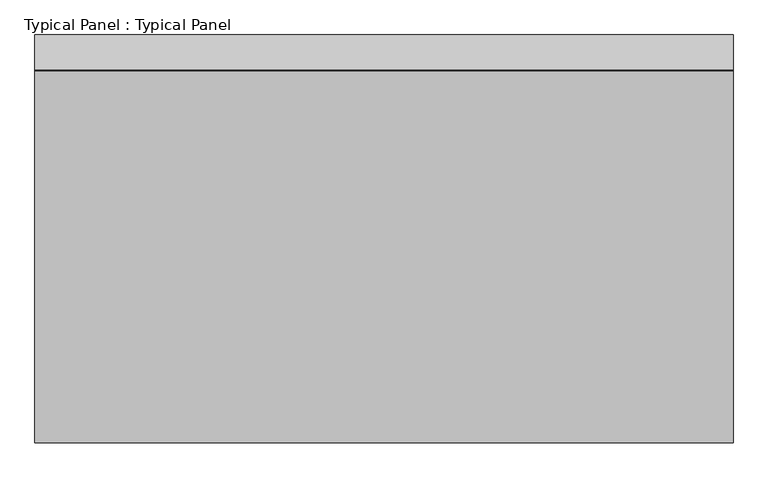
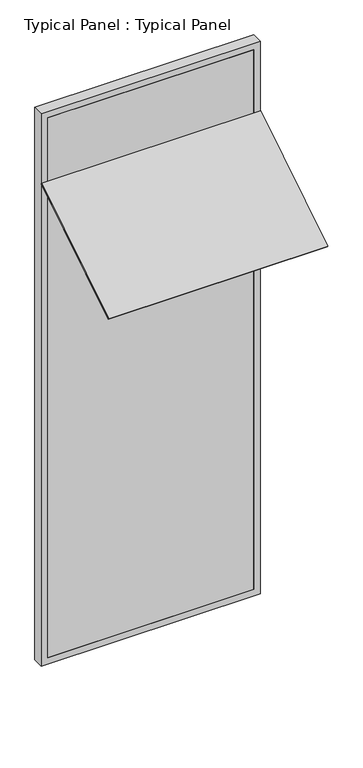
"""IFC4 building model written with IfcOpenShell, lengths in millimetres: plate geometry, Typical Panel : Typical Panel."""

from ifc_helpers import new_model, si_unit, frame, origin, place, context, project, spatial, polyline, outline, extrude, source, transform, mapped, element, save


def typical_panel_typical_panel_2c4e3443(model_context):
    return source(origin(), model_context, "Body", "SweptSolid", [
        extrude(outline(polyline([(0.0, -939.9999999), (0.0, 0.0), (1500.0, 0.0), (1500.0, -939.9999999), (0.0, -939.9999999)])), frame((750.0, -796.8660177, 2993.3954107), z_axis=(0.0, -0.5299192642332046, 0.8480480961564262), x_axis=(-1.0, 0.0, 0.0)), (0.0, 0.0, 1.0), 10.0),
        extrude(outline(polyline([(0.0, -750.0), (0.0, 750.0), (4000.0, 750.0), (4000.0, -750.0), (0.0, -750.0)]), holes=[polyline([(45.0, 705.0), (45.0, -705.0), (3955.0, -705.0), (3955.0, 705.0), (45.0, 705.0)])]), frame((0.0, -1.5797986, 0.0), z_axis=(0.0, 1.0, 0.0), x_axis=(0.0, 0.0, 1.0)), (0.0, 0.0, 1.0), 75.0),
        extrude(outline(polyline([(705.0, -1.5797986), (-705.0, -1.5797986), (-705.0, 13.4202014), (705.0, 13.4202014), (705.0, -1.5797986)])), frame((0.0, 0.0, 45.0), z_axis=(0.0, 0.0, 1.0), x_axis=(1.0, 0.0, 0.0)), (0.0, 0.0, 1.0), 3910.0),
    ])


if __name__ == "__main__":
    model = new_model("IFC4")
    model_context = context("Model", 3, world=origin())
    ifc_project = project(units=[si_unit("LENGTHUNIT", "METRE", prefix="MILLI")], contexts=[model_context])
    site = spatial("IfcSite", under=ifc_project)
    building = spatial("IfcBuilding", under=site)
    placement = place(None, origin())
    typical_panel_typical_panel_shape = typical_panel_typical_panel_2c4e3443(model_context)
    element("IfcPlate", 1, ObjectType="Typical Panel : Typical Panel", at=placement, inside=building, context=model_context, shape_type="MappedRepresentation", body=[
        mapped(typical_panel_typical_panel_shape, transform((0.0, 0.0, 0.0), x_axis=(1.0, 0.0, 0.0), y_axis=(0.0, 1.0, 0.0), z_axis=(0.0, 0.0, 1.0))),
    ])
    save(model, "model.ifc")
